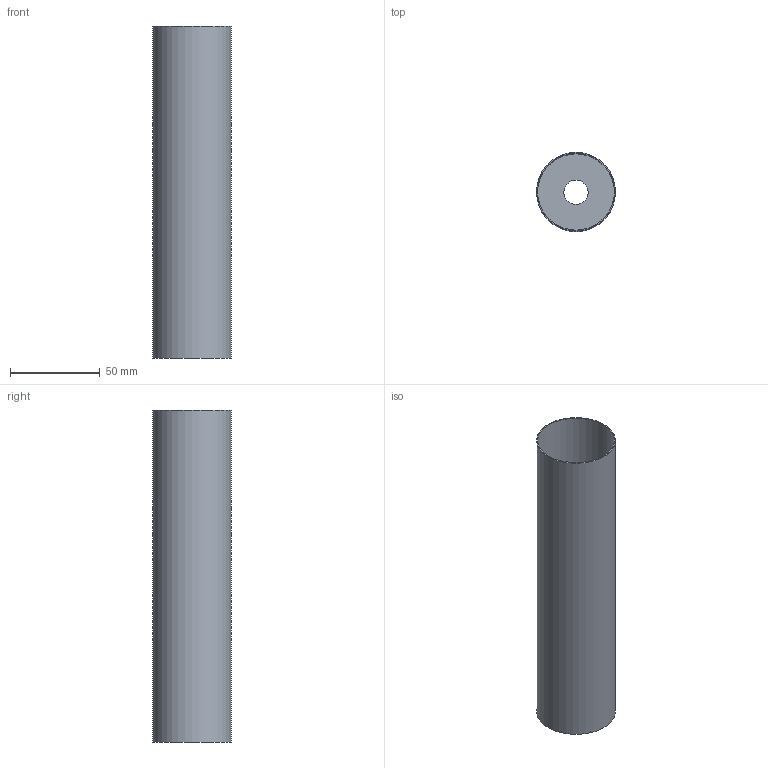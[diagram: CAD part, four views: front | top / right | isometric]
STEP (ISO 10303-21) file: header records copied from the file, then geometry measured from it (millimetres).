
FILE_DESCRIPTION(('Open CASCADE Model'),'2;1');
FILE_NAME('Open CASCADE Shape Model','2026-10-21T10:33:18',('Author'),( 'Open CASCADE'),'Open CASCADE STEP processor 7.9','Open CASCADE 7.9' ,'Unknown');
FILE_SCHEMA(('AUTOMOTIVE_DESIGN { 1 0 10303 214 1 1 1 1 }'));
Length unit declared in the file: millimetre
Products named in the file (1): Open CASCADE STEP translator 7.9 8
Bounding box: 44 x 44 x 185 mm (x, y, z)
Volume: 15911.7 mm3; surface area: 53147.2 mm2
Topology: 1 solids, 1 shells, 6 faces, 9 edges, 6 vertices
Faces by surface type: cylinder 3, plane 3
Full cylindrical faces by diameter (mm): 13.5 x1, 42.8 x1, 44 x1
Entity records: 279 total; most frequent: CARTESIAN_POINT 58, DIRECTION 44, ORIENTED_EDGE 18, PCURVE 18, DEFINITIONAL_REPRESENTATION 18, LINE 15, VECTOR 15, AXIS2_PLACEMENT_3D 13
